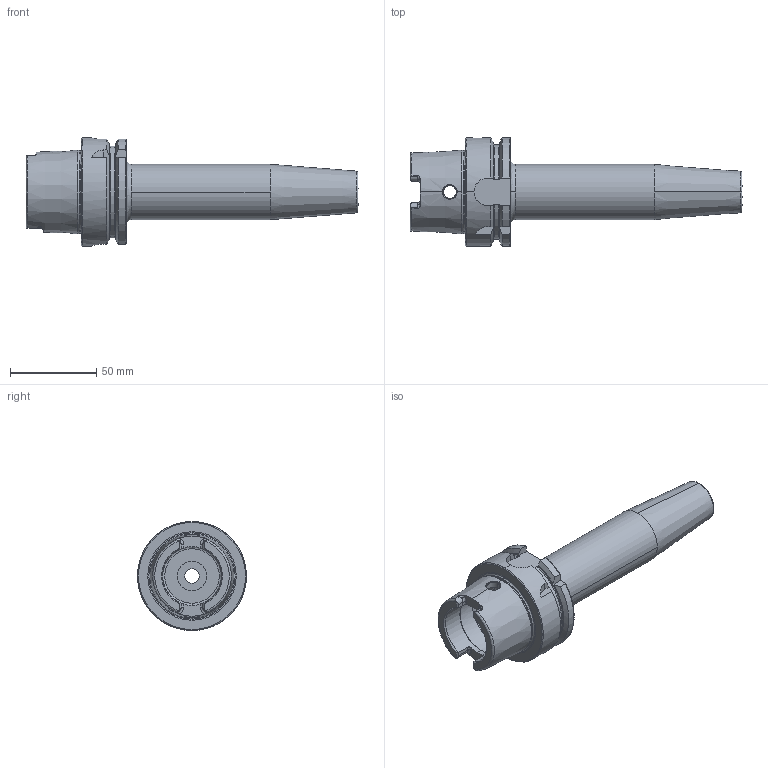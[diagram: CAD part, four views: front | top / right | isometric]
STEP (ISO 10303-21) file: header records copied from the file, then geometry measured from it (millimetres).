
FILE_DESCRIPTION (( 'STEP AP214' ), '1' );
FILE_NAME ('04-0487.STEP', '2021-08-03T19:05:34', ( '' ), ( '' ), 'SwSTEP 2.0', 'SolidWorks 2020', '' );
FILE_SCHEMA (( 'AUTOMOTIVE_DESIGN' ));
Length unit declared in the file: inch
Products named in the file (1): 04-0487
Bounding box: 192 x 63 x 63 mm (x, y, z)
Volume: 168981.8 mm3; surface area: 38823.1 mm2
Topology: 1 solids, 1 shells, 153 faces, 409 edges, 260 vertices
Faces by surface type: cylinder 49, bspline 41, plane 41, cone 22
Entity records: 8371 total; most frequent: CARTESIAN_POINT 4804, ORIENTED_EDGE 818, DIRECTION 656, EDGE_CURVE 409, AXIS2_PLACEMENT_3D 264, VERTEX_POINT 260, EDGE_LOOP 161, ADVANCED_FACE 153
